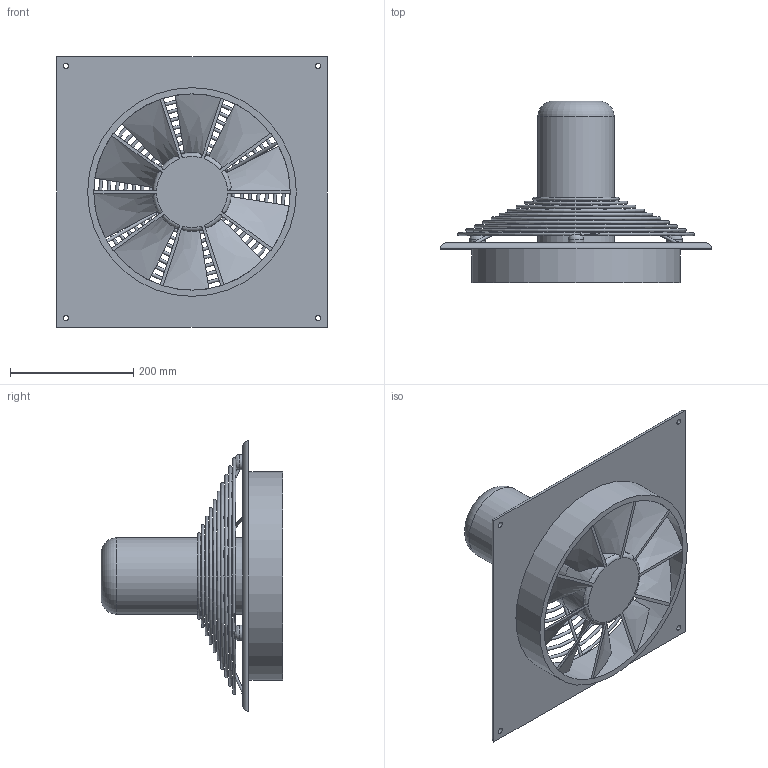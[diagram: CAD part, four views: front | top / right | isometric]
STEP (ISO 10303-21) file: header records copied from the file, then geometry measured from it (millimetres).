
FILE_DESCRIPTION(/* description */ (''),/* implementation_level */ '2;1');
FILE_NAME(/* name */ 'Z:\Output\HQD_315-6-01117-020.stp',/* time_stamp */ '2020-05-11T13:43:21+02:00',/* author */ ('pareshmistry'),/* organization */ (''),/* preprocessor_version */ 'ST-DEVELOPER v17.2',/* originating_system */ 'Autodesk Inventor 2019',/* authorisation */ '');
FILE_SCHEMA (('AUTOMOTIVE_DESIGN { 1 0 10303 214 3 1 1 }'));
Length unit declared in the file: millimetre
Products named in the file (1): HQW EC 450
Bounding box: 440 x 295 x 440 mm (x, y, z)
Volume: 5567762.6 mm3; surface area: 766923.8 mm2
Topology: 11 solids, 11 shells, 105 faces, 332 edges, 236 vertices
Faces by surface type: bspline 33, plane 28, cylinder 23, torus 21
Full cylindrical faces by diameter (mm): 5 x6, 9 x4, 25 x3, 124 x1, 128 x1, 319 x1, 339 x1
Entity records: 5447 total; most frequent: CARTESIAN_POINT 2451, ORIENTED_EDGE 704, DIRECTION 504, EDGE_CURVE 352, VERTEX_POINT 256, AXIS2_PLACEMENT_3D 207, EDGE_LOOP 126, B_SPLINE_CURVE_WITH_KNOTS 125
